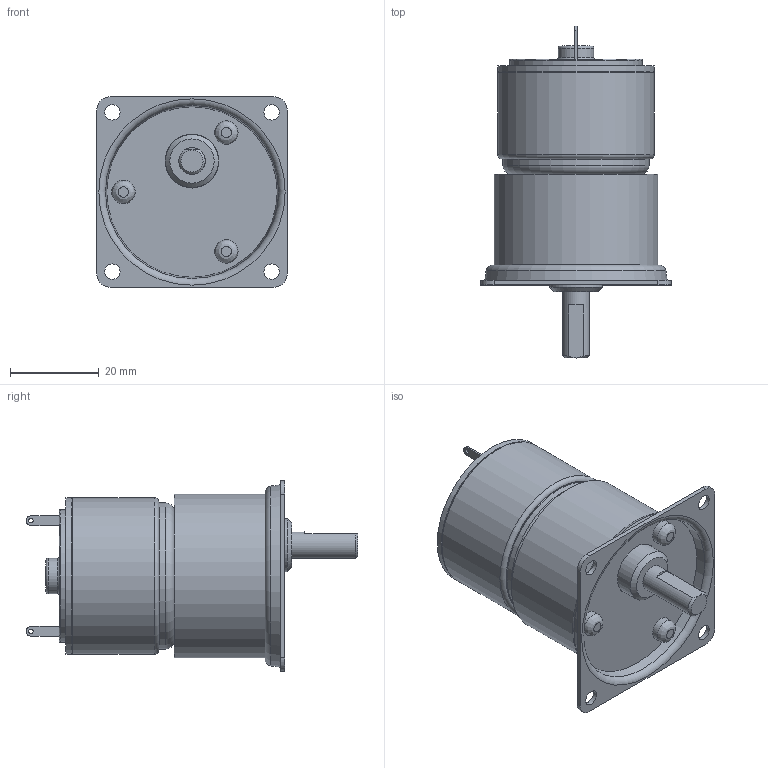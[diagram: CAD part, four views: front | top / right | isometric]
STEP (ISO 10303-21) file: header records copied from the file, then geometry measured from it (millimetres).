
FILE_DESCRIPTION((''),'2;1');
FILE_NAME('C:\Documents and Settings\SSEGAWA\デスクトップ\TP-3526G-PG-2.STP','2013-07-09T17:37:22',('SSEGAWA'),(''),'Autodesk Inventor 2010','Autodesk Inventor 2010','');
FILE_SCHEMA(('CONFIG_CONTROL_DESIGN'));
Length unit declared in the file: millimetre
Products named in the file (5): tp_3526g_pg_2; pg_2; kg_2; □43; tp_3526g
Assembly tree (4 placements, depth 3):
  tp_3526g_pg_2
    pg_2
      kg_2
      □43
    tp_3526g
Bounding box: 43 x 75 x 43 mm (x, y, z)
Volume: 49995.8 mm3; surface area: 14586.8 mm2
Topology: 3 solids, 3 shells, 107 faces, 226 edges, 148 vertices
Faces by surface type: plane 41, cylinder 31, bspline 24, torus 6, cone 5
Full cylindrical faces by diameter (mm): 2 x1, 2.4 x1, 4 x3, 5 x2, 5.3 x3, 6 x1, 8 x1, 10 x1, 12 x1, 12.2 x1, 30 x1, 33 x1, 35 x1, 35.4 x2, 37 x1
Entity records: 3085 total; most frequent: CARTESIAN_POINT 969, DIRECTION 439, ORIENTED_EDGE 302, EDGE_LOOP 199, AXIS2_PLACEMENT_3D 198, EDGE_CURVE 151, VERTEX_POINT 128, FACE_OUTER_BOUND 107
